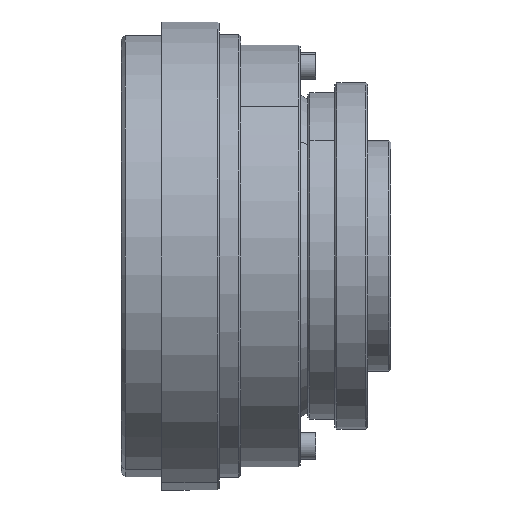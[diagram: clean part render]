
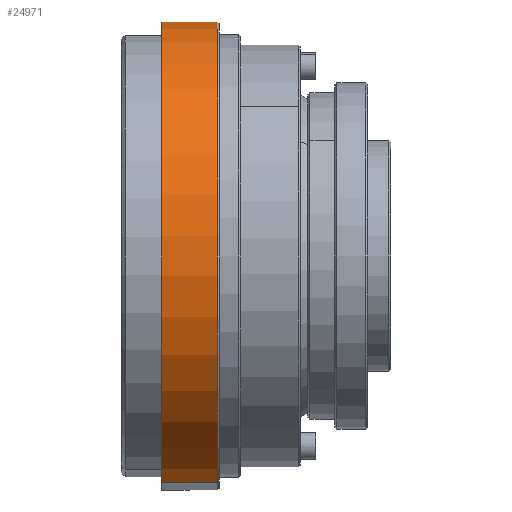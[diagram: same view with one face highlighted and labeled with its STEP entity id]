
A CAD part, front view. The second image highlights one B-rep face of the part: STEP entity #24971.
In plain terms, the highlighted cylindrical face has radius 61 mm (diameter 122 mm), a partial arc.
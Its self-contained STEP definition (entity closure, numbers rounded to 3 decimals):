
#210 = CARTESIAN_POINT ( 'NONE',  ( -115.505, 42.533, -58.921 ) ) ;
#2901 = CARTESIAN_POINT ( 'NONE',  ( -116.005, 42.533, -58.921 ) ) ;
#3166 = AXIS2_PLACEMENT_3D ( 'NONE', #81447, #38507, #62009 ) ;
#5241 = DIRECTION ( 'NONE',  ( 0., 0.259, 0.966 ) ) ;
#6597 = CARTESIAN_POINT ( 'NONE',  ( -116.005, 74.109, 58.921 ) ) ;
#8028 = CARTESIAN_POINT ( 'NONE',  ( -116.005, 58.321, 0. ) ) ;
#9081 = AXIS2_PLACEMENT_3D ( 'NONE', #47132, #40997, #16633 ) ;
#14249 = EDGE_CURVE ( 'NONE', #44892, #57519, #38230, .T. ) ;
#16561 = VECTOR ( 'NONE', #63379, 1000. ) ;
#16633 = DIRECTION ( 'NONE',  ( 0., -0.259, -0.966 ) ) ;
#16711 = DIRECTION ( 'NONE',  ( 1., 0., 0. ) ) ;
#18019 = EDGE_CURVE ( 'NONE', #44892, #21608, #49286, .T. ) ;
#19109 = CYLINDRICAL_SURFACE ( 'NONE', #3166, 61. ) ;
#19899 = ORIENTED_EDGE ( 'NONE', *, *, #18019, .F. ) ;
#21100 = ORIENTED_EDGE ( 'NONE', *, *, #46059, .T. ) ;
#21608 = VERTEX_POINT ( 'NONE', #6597 ) ;
#22949 = CARTESIAN_POINT ( 'NONE',  ( -130.505, 74.109, 58.921 ) ) ;
#24971 = ADVANCED_FACE ( 'NONE', ( #51251 ), #19109, .T. ) ;
#25175 = CARTESIAN_POINT ( 'NONE',  ( -130.505, 42.533, -58.921 ) ) ;
#27125 = ORIENTED_EDGE ( 'NONE', *, *, #75601, .T. ) ;
#28474 = CIRCLE ( 'NONE', #73224, 61. ) ;
#29039 = EDGE_LOOP ( 'NONE', ( #19899, #50038, #21100, #27125 ) ) ;
#33282 = DIRECTION ( 'NONE',  ( -1., 0., 0. ) ) ;
#35134 = VECTOR ( 'NONE', #16711, 1000. ) ;
#38230 = CIRCLE ( 'NONE', #9081, 61. ) ;
#38254 = LINE ( 'NONE', #210, #16561 ) ;
#38507 = DIRECTION ( 'NONE',  ( 1., 0., 0. ) ) ;
#40997 = DIRECTION ( 'NONE',  ( 1., 0., 0. ) ) ;
#44892 = VERTEX_POINT ( 'NONE', #22949 ) ;
#46059 = EDGE_CURVE ( 'NONE', #57519, #61851, #38254, .T. ) ;
#47132 = CARTESIAN_POINT ( 'NONE',  ( -130.505, 58.321, 0. ) ) ;
#49286 = LINE ( 'NONE', #73240, #35134 ) ;
#50038 = ORIENTED_EDGE ( 'NONE', *, *, #14249, .T. ) ;
#51251 = FACE_OUTER_BOUND ( 'NONE', #29039, .T. ) ;
#57519 = VERTEX_POINT ( 'NONE', #25175 ) ;
#61851 = VERTEX_POINT ( 'NONE', #2901 ) ;
#62009 = DIRECTION ( 'NONE',  ( 0., -0.259, -0.966 ) ) ;
#63379 = DIRECTION ( 'NONE',  ( 1., 0., 0. ) ) ;
#73224 = AXIS2_PLACEMENT_3D ( 'NONE', #8028, #33282, #5241 ) ;
#73240 = CARTESIAN_POINT ( 'NONE',  ( -115.505, 74.109, 58.921 ) ) ;
#75601 = EDGE_CURVE ( 'NONE', #61851, #21608, #28474, .T. ) ;
#81447 = CARTESIAN_POINT ( 'NONE',  ( -115.505, 58.321, 0. ) ) ;
